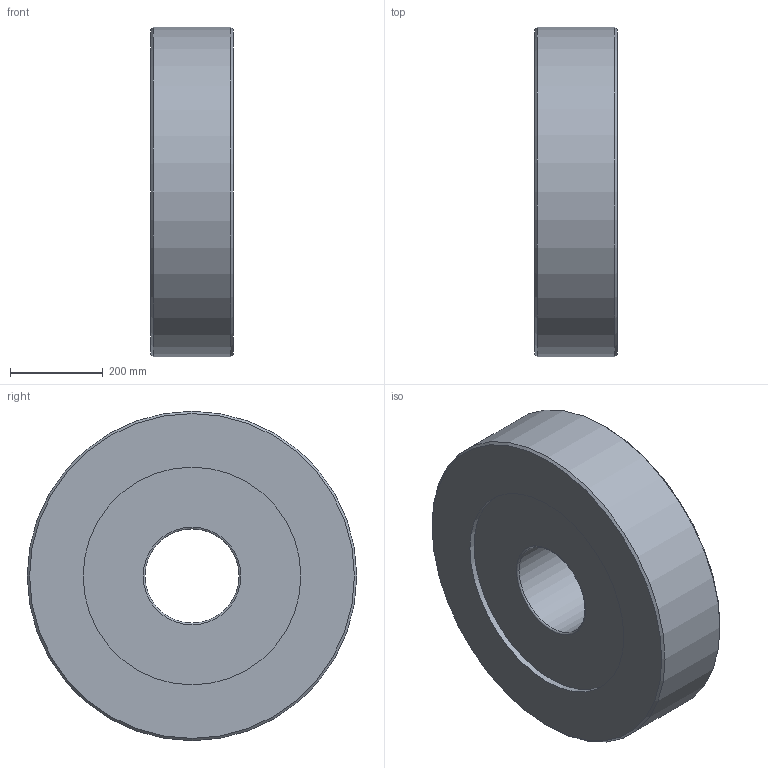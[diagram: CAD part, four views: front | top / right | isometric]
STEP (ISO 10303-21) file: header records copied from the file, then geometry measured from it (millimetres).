
FILE_DESCRIPTION((''),'1');
FILE_NAME('H:/図庫/国内ﾕﾆｯﾄ/ｶﾀﾛｸﾞ/樹脂巻き/ホームページ用ＣＡＤ図面/update用/3D/', '2017-07-13T07:50:39',(''), (''), 'KCM Version 1.1.1442.0', 'Kubotek KeyCreator', '');
FILE_SCHEMA(('AUTOMOTIVE_DESIGN'));
Length unit declared in the file: inch
Bounding box: 177.8 x 711.2 x 711.2 mm (x, y, z)
Surface area: 1246261.9 mm2 (no closed solid volume)
Topology: 0 solids, 12 shells, 12 faces, 40 edges, 32 vertices
Faces by surface type: plane 4, cylinder 4, torus 2, cone 2
Full cylindrical faces by diameter (mm): 203.2 x1, 469.9 x2, 711.2 x1
Entity records: 476 total; most frequent: DIRECTION 92, CARTESIAN_POINT 81, ORIENTED_EDGE 48, AXIS2_PLACEMENT_3D 43, EDGE_CURVE 40, VERTEX_POINT 32, CIRCLE 30, EDGE_LOOP 16
